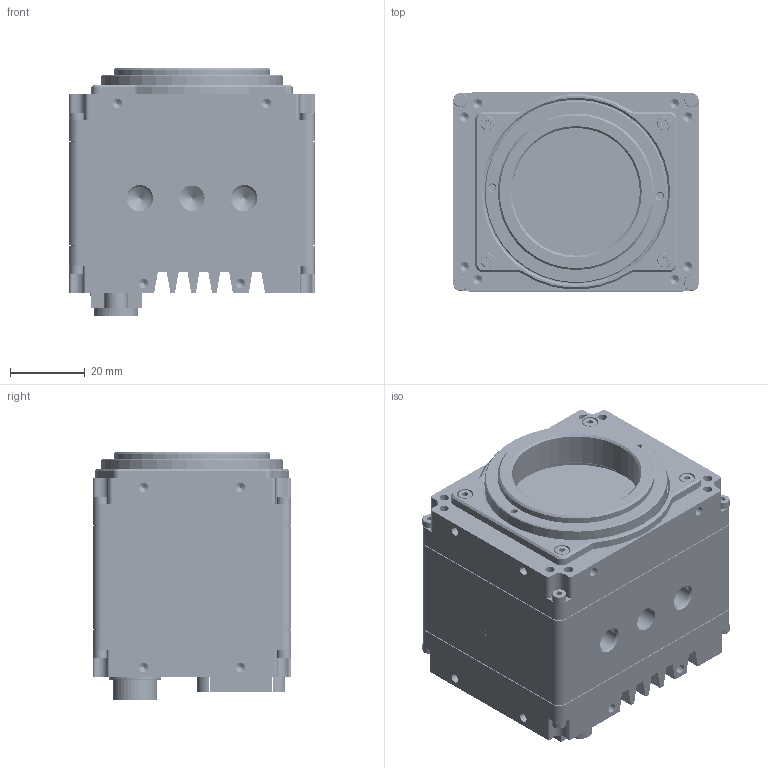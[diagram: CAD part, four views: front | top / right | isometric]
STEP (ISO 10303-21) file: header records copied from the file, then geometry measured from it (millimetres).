
FILE_DESCRIPTION (( 'STEP AP203' ), '1' );
FILE_NAME ('GT LF IMX TFL-MOUNT COLOR.STEP', '2019-08-15T20:40:57', ( '' ), ( '' ), 'SwSTEP 2.0', 'SolidWorks 2018', '' );
FILE_SCHEMA (( 'CONFIG_CONTROL_DESIGN' ));
Products named in the file (1): GT LF IMX TFL-MOUNT COLOR
Bounding box: 66.04 x 53.34 x 66.74 mm (x, y, z)
Volume: 94082.8 mm3; surface area: 79391.2 mm2
Topology: 24 solids, 24 shells, 12028 faces, 27724 edges, 18153 vertices
Faces by surface type: plane 6980, cylinder 4029, torus 492, cone 252, bspline 245, sphere 30
Entity records: 355452 total; most frequent: CARTESIAN_POINT 76417, DIRECTION 59053, ORIENTED_EDGE 55136, EDGE_CURVE 27568, AXIS2_PLACEMENT_3D 20637, VERTEX_POINT 18129, VECTOR 17779, LINE 17779
